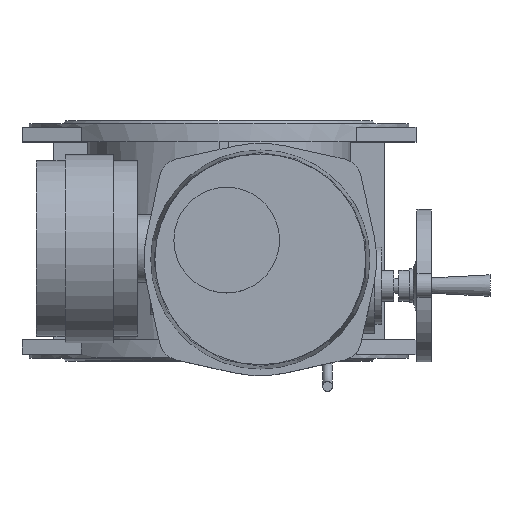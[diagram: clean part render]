
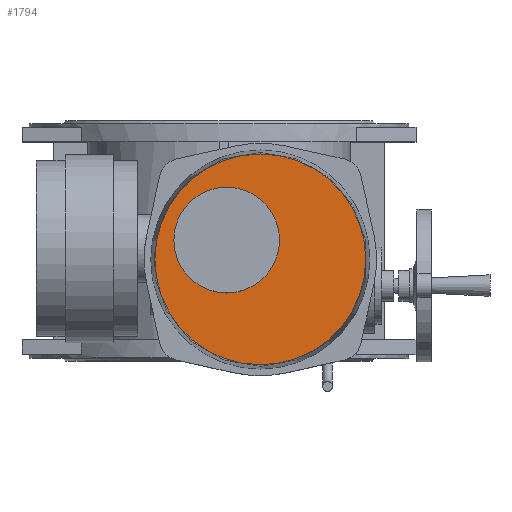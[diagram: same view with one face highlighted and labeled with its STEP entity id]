
A CAD part, top view. The second image highlights one B-rep face of the part: STEP entity #1794.
In plain terms, the highlighted planar face has unit normal (0, 0, 1).
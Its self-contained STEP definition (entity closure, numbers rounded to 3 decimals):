
#1794=ADVANCED_FACE('',(#3867,#3869),#3871,.T.);
#3867=FACE_BOUND('',#3868,.T.);
#3868=EDGE_LOOP('',(#5149));
#3869=FACE_BOUND('',#3870,.T.);
#3870=EDGE_LOOP('',(#5150));
#3871=PLANE('',#3872);
#3872=AXIS2_PLACEMENT_3D('',#3873,#3874,#3875);
#3873=CARTESIAN_POINT('',(43.,-20.,509.));
#3874=DIRECTION('',(0.,0.,1.));
#3875=DIRECTION('',(0.,1.,0.));
#5149=ORIENTED_EDGE('',*,*,#5772,.T.);
#5150=ORIENTED_EDGE('',*,*,#5777,.F.);
#5772=EDGE_CURVE('',#6643,#6643,#6644,.T.);
#5777=EDGE_CURVE('',#6653,#6653,#6654,.T.);
#6643=VERTEX_POINT('',#10142);
#6644=CIRCLE('',#10143,109.703);
#6653=VERTEX_POINT('',#10167);
#6654=CIRCLE('',#10168,55.);
#10142=CARTESIAN_POINT('',(43.,89.703,509.));
#10143=AXIS2_PLACEMENT_3D('',#10144,#10145,#10146);
#10144=CARTESIAN_POINT('',(43.,-20.,509.));
#10145=DIRECTION('',(0.,0.,1.));
#10146=DIRECTION('',(0.,1.,0.));
#10167=CARTESIAN_POINT('',(8.,55.,509.));
#10168=AXIS2_PLACEMENT_3D('',#10169,#10170,#10171);
#10169=CARTESIAN_POINT('',(8.,0.,509.));
#10170=DIRECTION('',(0.,0.,1.));
#10171=DIRECTION('',(0.,1.,0.));
